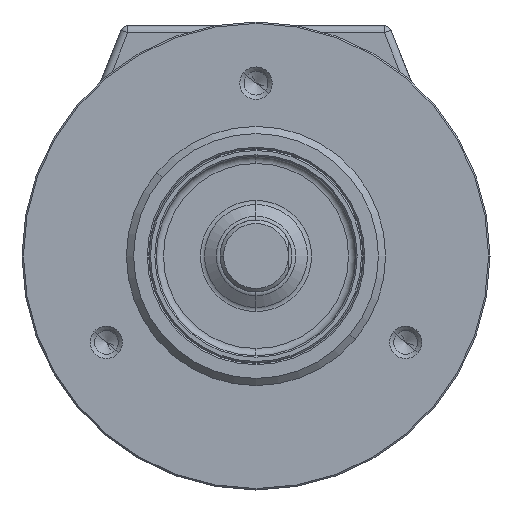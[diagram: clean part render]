
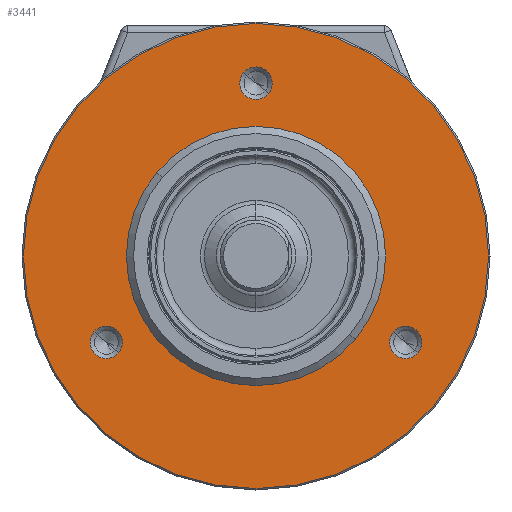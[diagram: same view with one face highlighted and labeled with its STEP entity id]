
A CAD part, front view. The second image highlights one B-rep face of the part: STEP entity #3441.
In plain terms, the highlighted planar face has unit normal (0, -1, 0).
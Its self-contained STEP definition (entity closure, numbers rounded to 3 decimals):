
#226 = EDGE_CURVE ( 'NONE', #721, #15444, #4876, .T. ) ;
#370 = AXIS2_PLACEMENT_3D ( 'NONE', #5815, #2849, #1063 ) ;
#454 = EDGE_CURVE ( 'NONE', #10896, #19217, #14162, .T. ) ;
#721 = VERTEX_POINT ( 'NONE', #7100 ) ;
#934 = FACE_BOUND ( 'NONE', #17237, .T. ) ;
#1063 = DIRECTION ( 'NONE',  ( -0.766, 0., 0.643 ) ) ;
#1249 = EDGE_LOOP ( 'NONE', ( #19072, #12859 ) ) ;
#2193 = CARTESIAN_POINT ( 'NONE',  ( -20.785, -11.5, -12. ) ) ;
#2231 = ORIENTED_EDGE ( 'NONE', *, *, #454, .F. ) ;
#2338 = VERTEX_POINT ( 'NONE', #10498 ) ;
#2611 = CIRCLE ( 'NONE', #7955, 2.25 ) ;
#2849 = DIRECTION ( 'NONE',  ( 0., -1., 0. ) ) ;
#2982 = CARTESIAN_POINT ( 'NONE',  ( 0., -11.5, 0. ) ) ;
#3179 = EDGE_LOOP ( 'NONE', ( #15104, #6071 ) ) ;
#3441 = ADVANCED_FACE ( 'NONE', ( #19013, #15942, #934, #15845, #18913 ), #8437, .F. ) ;
#4114 = ORIENTED_EDGE ( 'NONE', *, *, #15246, .F. ) ;
#4269 = CIRCLE ( 'NONE', #16578, 2.25 ) ;
#4445 = CARTESIAN_POINT ( 'NONE',  ( -24.743, -11.5, 20.762 ) ) ;
#4467 = DIRECTION ( 'NONE',  ( -0.766, 0., 0.643 ) ) ;
#4747 = CIRCLE ( 'NONE', #17031, 2.25 ) ;
#4876 = CIRCLE ( 'NONE', #17798, 32.3 ) ;
#5036 = CARTESIAN_POINT ( 'NONE',  ( 20.785, -11.5, -12. ) ) ;
#5087 = VERTEX_POINT ( 'NONE', #12412 ) ;
#5245 = EDGE_LOOP ( 'NONE', ( #6355, #2231 ) ) ;
#5621 = CARTESIAN_POINT ( 'NONE',  ( 0., -11.5, 0. ) ) ;
#5648 = AXIS2_PLACEMENT_3D ( 'NONE', #5036, #6798, #12830 ) ;
#5671 = CARTESIAN_POINT ( 'NONE',  ( 20.891, -11.5, 24.896 ) ) ;
#5743 = DIRECTION ( 'NONE',  ( 0.766, 0., -0.643 ) ) ;
#5815 = CARTESIAN_POINT ( 'NONE',  ( 0., -11.5, 0. ) ) ;
#6046 = DIRECTION ( 'NONE',  ( 0., -1., 0. ) ) ;
#6068 = CIRCLE ( 'NONE', #11445, 18. ) ;
#6071 = ORIENTED_EDGE ( 'NONE', *, *, #14424, .F. ) ;
#6355 = ORIENTED_EDGE ( 'NONE', *, *, #15545, .F. ) ;
#6798 = DIRECTION ( 'NONE',  ( 0., -1., 0. ) ) ;
#6956 = CIRCLE ( 'NONE', #370, 18. ) ;
#7097 = DIRECTION ( 'NONE',  ( 0., -1., 0. ) ) ;
#7100 = CARTESIAN_POINT ( 'NONE',  ( 24.743, -11.5, -20.762 ) ) ;
#7199 = DIRECTION ( 'NONE',  ( 0., -1., 0. ) ) ;
#7433 = CIRCLE ( 'NONE', #14708, 2.25 ) ;
#7447 = CIRCLE ( 'NONE', #18496, 32.3 ) ;
#7828 = CARTESIAN_POINT ( 'NONE',  ( 0., -11.5, 24. ) ) ;
#7955 = AXIS2_PLACEMENT_3D ( 'NONE', #7828, #10983, #11473 ) ;
#8193 = VERTEX_POINT ( 'NONE', #16423 ) ;
#8199 = DIRECTION ( 'NONE',  ( -0.766, 0., 0.643 ) ) ;
#8317 = DIRECTION ( 'NONE',  ( -0.766, 0., 0.643 ) ) ;
#8421 = DIRECTION ( 'NONE',  ( 0., -1., 0. ) ) ;
#8437 = PLANE ( 'NONE',  #17159 ) ;
#8606 = CARTESIAN_POINT ( 'NONE',  ( -22.508, -11.5, -10.554 ) ) ;
#8769 = DIRECTION ( 'NONE',  ( 0., -1., 0. ) ) ;
#9651 = CARTESIAN_POINT ( 'NONE',  ( 0., -11.5, 0. ) ) ;
#9694 = EDGE_CURVE ( 'NONE', #12844, #18432, #4747, .T. ) ;
#9849 = CARTESIAN_POINT ( 'NONE',  ( 19.061, -11.5, -10.554 ) ) ;
#10055 = EDGE_CURVE ( 'NONE', #11081, #2338, #6956, .T. ) ;
#10498 = CARTESIAN_POINT ( 'NONE',  ( 13.789, -11.5, -11.57 ) ) ;
#10820 = DIRECTION ( 'NONE',  ( 0., -1., 0. ) ) ;
#10896 = VERTEX_POINT ( 'NONE', #11014 ) ;
#10904 = ORIENTED_EDGE ( 'NONE', *, *, #10913, .T. ) ;
#10913 = EDGE_CURVE ( 'NONE', #15444, #721, #7447, .T. ) ;
#10983 = DIRECTION ( 'NONE',  ( 0., -1., 0. ) ) ;
#11014 = CARTESIAN_POINT ( 'NONE',  ( 22.508, -11.5, -13.446 ) ) ;
#11081 = VERTEX_POINT ( 'NONE', #17833 ) ;
#11445 = AXIS2_PLACEMENT_3D ( 'NONE', #5621, #8769, #14903 ) ;
#11473 = DIRECTION ( 'NONE',  ( -0.766, 0., 0.643 ) ) ;
#11600 = DIRECTION ( 'NONE',  ( 0.766, 0., -0.643 ) ) ;
#11808 = ORIENTED_EDGE ( 'NONE', *, *, #16241, .F. ) ;
#11882 = AXIS2_PLACEMENT_3D ( 'NONE', #17995, #6046, #4467 ) ;
#12412 = CARTESIAN_POINT ( 'NONE',  ( -1.724, -11.5, 25.446 ) ) ;
#12814 = CIRCLE ( 'NONE', #11882, 2.25 ) ;
#12830 = DIRECTION ( 'NONE',  ( -0.766, 0., 0.643 ) ) ;
#12844 = VERTEX_POINT ( 'NONE', #8606 ) ;
#12859 = ORIENTED_EDGE ( 'NONE', *, *, #15792, .F. ) ;
#14162 = CIRCLE ( 'NONE', #5648, 2.25 ) ;
#14193 = DIRECTION ( 'NONE',  ( 0.766, 0., -0.643 ) ) ;
#14296 = DIRECTION ( 'NONE',  ( -0.766, 0., 0.643 ) ) ;
#14359 = CARTESIAN_POINT ( 'NONE',  ( -20.785, -11.5, -12. ) ) ;
#14424 = EDGE_CURVE ( 'NONE', #18432, #12844, #4269, .T. ) ;
#14708 = AXIS2_PLACEMENT_3D ( 'NONE', #16887, #18832, #14296 ) ;
#14765 = DIRECTION ( 'NONE',  ( 0., 1., 0. ) ) ;
#14903 = DIRECTION ( 'NONE',  ( -0.766, 0., 0.643 ) ) ;
#15104 = ORIENTED_EDGE ( 'NONE', *, *, #9694, .F. ) ;
#15246 = EDGE_CURVE ( 'NONE', #5087, #8193, #12814, .T. ) ;
#15444 = VERTEX_POINT ( 'NONE', #4445 ) ;
#15484 = ORIENTED_EDGE ( 'NONE', *, *, #226, .T. ) ;
#15545 = EDGE_CURVE ( 'NONE', #19217, #10896, #7433, .T. ) ;
#15792 = EDGE_CURVE ( 'NONE', #2338, #11081, #6068, .T. ) ;
#15845 = FACE_BOUND ( 'NONE', #5245, .T. ) ;
#15942 = FACE_BOUND ( 'NONE', #3179, .T. ) ;
#16241 = EDGE_CURVE ( 'NONE', #8193, #5087, #2611, .T. ) ;
#16423 = CARTESIAN_POINT ( 'NONE',  ( 1.724, -11.5, 22.554 ) ) ;
#16578 = AXIS2_PLACEMENT_3D ( 'NONE', #14359, #8421, #8317 ) ;
#16887 = CARTESIAN_POINT ( 'NONE',  ( 20.785, -11.5, -12. ) ) ;
#17031 = AXIS2_PLACEMENT_3D ( 'NONE', #2193, #7097, #8199 ) ;
#17159 = AXIS2_PLACEMENT_3D ( 'NONE', #5671, #14765, #11600 ) ;
#17237 = EDGE_LOOP ( 'NONE', ( #4114, #11808 ) ) ;
#17304 = EDGE_LOOP ( 'NONE', ( #15484, #10904 ) ) ;
#17798 = AXIS2_PLACEMENT_3D ( 'NONE', #2982, #7199, #5743 ) ;
#17833 = CARTESIAN_POINT ( 'NONE',  ( -13.789, -11.5, 11.57 ) ) ;
#17995 = CARTESIAN_POINT ( 'NONE',  ( 0., -11.5, 24. ) ) ;
#18432 = VERTEX_POINT ( 'NONE', #19331 ) ;
#18496 = AXIS2_PLACEMENT_3D ( 'NONE', #9651, #10820, #14193 ) ;
#18832 = DIRECTION ( 'NONE',  ( 0., -1., 0. ) ) ;
#18913 = FACE_BOUND ( 'NONE', #1249, .T. ) ;
#19013 = FACE_OUTER_BOUND ( 'NONE', #17304, .T. ) ;
#19072 = ORIENTED_EDGE ( 'NONE', *, *, #10055, .F. ) ;
#19217 = VERTEX_POINT ( 'NONE', #9849 ) ;
#19331 = CARTESIAN_POINT ( 'NONE',  ( -19.061, -11.5, -13.446 ) ) ;
